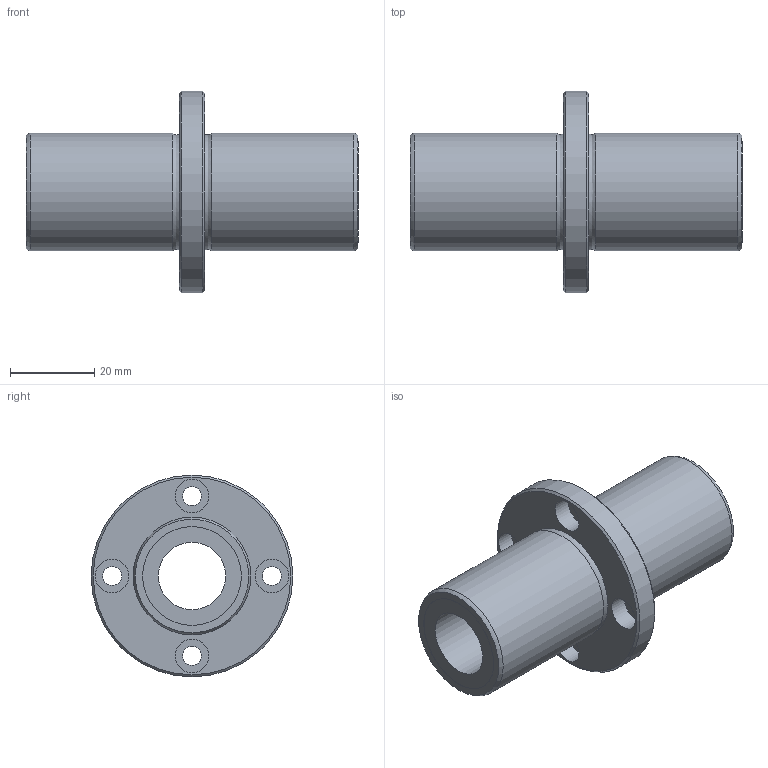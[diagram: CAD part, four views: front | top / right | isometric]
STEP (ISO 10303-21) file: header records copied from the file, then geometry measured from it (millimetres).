
FILE_DESCRIPTION((''),'2;1');
FILE_NAME('D:\製品 (図面)\カタログ用3D\メンテナンスフリー関連\STEP形式\LFDC-MF\LFDC16MF.stp','2010-06-01T15:38:58',('Tsuchiya'),(''),'Autodesk Inventor 10','Autodesk Inventor 10','');
FILE_SCHEMA(('AUTOMOTIVE_DESIGN { 1 0 10303 214 1 1 1 1 }'));
Length unit declared in the file: millimetre
Products named in the file (1): LFDC16MF
Bounding box: 79 x 48 x 48 mm (x, y, z)
Volume: 38738.1 mm3; surface area: 14818.6 mm2
Topology: 1 solids, 1 shells, 30 faces, 54 edges, 34 vertices
Faces by surface type: cylinder 14, plane 10, cone 2, torus 2, bspline 2
Full cylindrical faces by diameter (mm): 4.5 x4, 8 x4, 16 x1, 23.5 x2, 28 x2, 48 x1
Entity records: 803 total; most frequent: CARTESIAN_POINT 223, DIRECTION 126, ORIENTED_EDGE 68, EDGE_LOOP 68, AXIS2_PLACEMENT_3D 63, FACE_BOUND 38, VERTEX_POINT 34, CIRCLE 34
